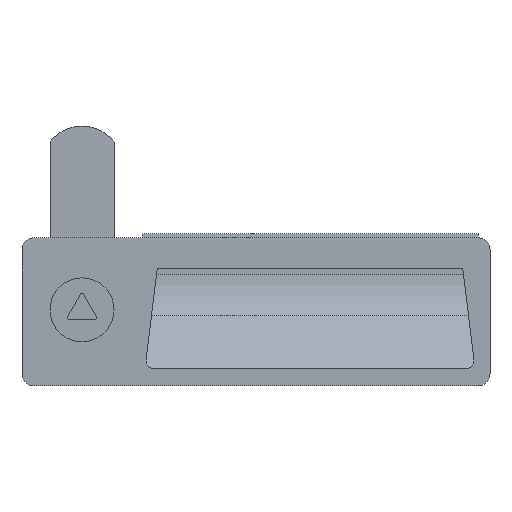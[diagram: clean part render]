
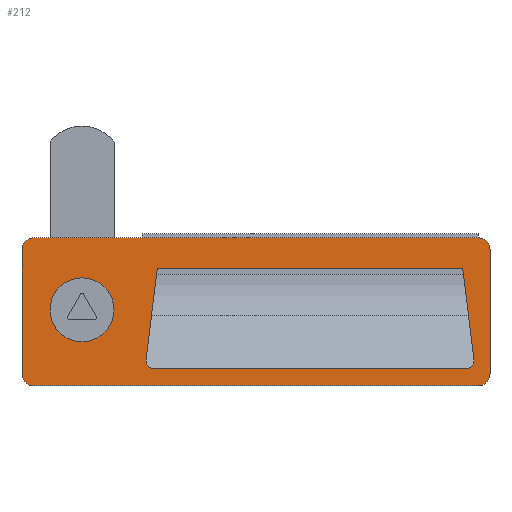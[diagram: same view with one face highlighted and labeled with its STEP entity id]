
A CAD part, top view. The second image highlights one B-rep face of the part: STEP entity #212.
In plain terms, the highlighted planar face has unit normal (0, 0, 1).
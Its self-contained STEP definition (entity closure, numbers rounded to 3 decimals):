
#212 = ADVANCED_FACE( '', ( #348, #349, #350 ), #351, .T. );
#348 = FACE_BOUND( '', #535, .T. );
#349 = FACE_OUTER_BOUND( '', #536, .T. );
#350 = FACE_BOUND( '', #537, .T. );
#351 = PLANE( '', #538 );
#535 = EDGE_LOOP( '', ( #989 ) );
#536 = EDGE_LOOP( '', ( #990, #991, #992, #993, #994, #995, #996, #997 ) );
#537 = EDGE_LOOP( '', ( #998, #999, #1000, #1001, #1002, #1003 ) );
#538 = AXIS2_PLACEMENT_3D( '', #1004, #1005, #1006 );
#989 = ORIENTED_EDGE( '', *, *, #1457, .F. );
#990 = ORIENTED_EDGE( '', *, *, #1458, .T. );
#991 = ORIENTED_EDGE( '', *, *, #1459, .T. );
#992 = ORIENTED_EDGE( '', *, *, #1460, .T. );
#993 = ORIENTED_EDGE( '', *, *, #1461, .T. );
#994 = ORIENTED_EDGE( '', *, *, #1462, .T. );
#995 = ORIENTED_EDGE( '', *, *, #1463, .T. );
#996 = ORIENTED_EDGE( '', *, *, #1464, .T. );
#997 = ORIENTED_EDGE( '', *, *, #1465, .T. );
#998 = ORIENTED_EDGE( '', *, *, #1416, .F. );
#999 = ORIENTED_EDGE( '', *, *, #1417, .F. );
#1000 = ORIENTED_EDGE( '', *, *, #1407, .F. );
#1001 = ORIENTED_EDGE( '', *, *, #1410, .F. );
#1002 = ORIENTED_EDGE( '', *, *, #1412, .F. );
#1003 = ORIENTED_EDGE( '', *, *, #1414, .F. );
#1004 = CARTESIAN_POINT( '', ( -12., -16., 2. ) );
#1005 = DIRECTION( '', ( 0., 0., 1. ) );
#1006 = DIRECTION( '', ( 1., 0., 0. ) );
#1407 = EDGE_CURVE( '', #1683, #1685, #1686, .T. );
#1410 = EDGE_CURVE( '', #1688, #1683, #1690, .T. );
#1412 = EDGE_CURVE( '', #1691, #1688, #1693, .T. );
#1414 = EDGE_CURVE( '', #1694, #1691, #1696, .T. );
#1416 = EDGE_CURVE( '', #1697, #1694, #1699, .T. );
#1417 = EDGE_CURVE( '', #1685, #1697, #1700, .T. );
#1457 = EDGE_CURVE( '', #1766, #1766, #1767, .T. );
#1458 = EDGE_CURVE( '', #1768, #1769, #1770, .T. );
#1459 = EDGE_CURVE( '', #1769, #1771, #1772, .T. );
#1460 = EDGE_CURVE( '', #1771, #1773, #1774, .T. );
#1461 = EDGE_CURVE( '', #1773, #1775, #1776, .T. );
#1462 = EDGE_CURVE( '', #1775, #1777, #1778, .T. );
#1463 = EDGE_CURVE( '', #1777, #1779, #1780, .T. );
#1464 = EDGE_CURVE( '', #1779, #1781, #1782, .T. );
#1465 = EDGE_CURVE( '', #1781, #1768, #1783, .T. );
#1683 = VERTEX_POINT( '', #2093 );
#1685 = VERTEX_POINT( '', #2096 );
#1686 = LINE( '', #2097, #2098 );
#1688 = VERTEX_POINT( '', #2101 );
#1690 = LINE( '', #2104, #2105 );
#1691 = VERTEX_POINT( '', #2106 );
#1693 = CIRCLE( '', #2109, 2. );
#1694 = VERTEX_POINT( '', #2110 );
#1696 = LINE( '', #2113, #2114 );
#1697 = VERTEX_POINT( '', #2115 );
#1699 = CIRCLE( '', #2118, 2. );
#1700 = LINE( '', #2119, #2120 );
#1766 = VERTEX_POINT( '', #2211 );
#1767 = CIRCLE( '', #2212, 8. );
#1768 = VERTEX_POINT( '', #2213 );
#1769 = VERTEX_POINT( '', #2214 );
#1770 = LINE( '', #2215, #2216 );
#1771 = VERTEX_POINT( '', #2217 );
#1772 = CIRCLE( '', #2218, 3. );
#1773 = VERTEX_POINT( '', #2219 );
#1774 = LINE( '', #2220, #2221 );
#1775 = VERTEX_POINT( '', #2222 );
#1776 = CIRCLE( '', #2223, 3. );
#1777 = VERTEX_POINT( '', #2224 );
#1778 = LINE( '', #2225, #2226 );
#1779 = VERTEX_POINT( '', #2227 );
#1780 = CIRCLE( '', #2228, 3. );
#1781 = VERTEX_POINT( '', #2229 );
#1782 = LINE( '', #2230, #2231 );
#1783 = CIRCLE( '', #2232, 3. );
#2093 = CARTESIAN_POINT( '', ( 95.18, 10.26, 2. ) );
#2096 = CARTESIAN_POINT( '', ( 18.82, 10.26, 2. ) );
#2097 = CARTESIAN_POINT( '', ( 95.18, 10.26, 2. ) );
#2098 = VECTOR( '', #2540, 1000. );
#2101 = CARTESIAN_POINT( '', ( 97.975, -12.496, 2. ) );
#2104 = CARTESIAN_POINT( '', ( 97.975, -12.496, 2. ) );
#2105 = VECTOR( '', #2543, 1000. );
#2106 = CARTESIAN_POINT( '', ( 95.989, -14.74, 2. ) );
#2109 = AXIS2_PLACEMENT_3D( '', #2545, #2546, #2547 );
#2110 = CARTESIAN_POINT( '', ( 18.011, -14.74, 2. ) );
#2113 = CARTESIAN_POINT( '', ( 18.011, -14.74, 2. ) );
#2114 = VECTOR( '', #2549, 1000. );
#2115 = CARTESIAN_POINT( '', ( 16.025, -12.496, 2. ) );
#2118 = AXIS2_PLACEMENT_3D( '', #2551, #2552, #2553 );
#2119 = CARTESIAN_POINT( '', ( 18.82, 10.26, 2. ) );
#2120 = VECTOR( '', #2554, 1000. );
#2211 = CARTESIAN_POINT( '', ( 8., 0., 2. ) );
#2212 = AXIS2_PLACEMENT_3D( '', #2622, #2623, #2624 );
#2213 = CARTESIAN_POINT( '', ( -15., 15., 2. ) );
#2214 = CARTESIAN_POINT( '', ( -15., -16., 2. ) );
#2215 = CARTESIAN_POINT( '', ( -15., 15., 2. ) );
#2216 = VECTOR( '', #2625, 1000. );
#2217 = CARTESIAN_POINT( '', ( -12., -19., 2. ) );
#2218 = AXIS2_PLACEMENT_3D( '', #2626, #2627, #2628 );
#2219 = CARTESIAN_POINT( '', ( 99., -19., 2. ) );
#2220 = CARTESIAN_POINT( '', ( -12., -19., 2. ) );
#2221 = VECTOR( '', #2629, 1000. );
#2222 = CARTESIAN_POINT( '', ( 102., -16., 2. ) );
#2223 = AXIS2_PLACEMENT_3D( '', #2630, #2631, #2632 );
#2224 = CARTESIAN_POINT( '', ( 102., 15., 2. ) );
#2225 = CARTESIAN_POINT( '', ( 102., -16., 2. ) );
#2226 = VECTOR( '', #2633, 1000. );
#2227 = CARTESIAN_POINT( '', ( 99., 18., 2. ) );
#2228 = AXIS2_PLACEMENT_3D( '', #2634, #2635, #2636 );
#2229 = CARTESIAN_POINT( '', ( -12., 18., 2. ) );
#2230 = CARTESIAN_POINT( '', ( 99., 18., 2. ) );
#2231 = VECTOR( '', #2637, 1000. );
#2232 = AXIS2_PLACEMENT_3D( '', #2638, #2639, #2640 );
#2540 = DIRECTION( '', ( -1., 0., 0. ) );
#2543 = DIRECTION( '', ( -0.122, 0.993, 0. ) );
#2545 = CARTESIAN_POINT( '', ( 95.989, -12.74, 2. ) );
#2546 = DIRECTION( '', ( 0., 0., 1. ) );
#2547 = DIRECTION( '', ( 1., 0., 0. ) );
#2549 = DIRECTION( '', ( 1., 0., 0. ) );
#2551 = CARTESIAN_POINT( '', ( 18.011, -12.74, 2. ) );
#2552 = DIRECTION( '', ( 0., 0., 1. ) );
#2553 = DIRECTION( '', ( 1., 0., 0. ) );
#2554 = DIRECTION( '', ( -0.122, -0.993, 0. ) );
#2622 = CARTESIAN_POINT( '', ( 0., 0., 2. ) );
#2623 = DIRECTION( '', ( 0., 0., 1. ) );
#2624 = DIRECTION( '', ( 1., 0., 0. ) );
#2625 = DIRECTION( '', ( 0., -1., 0. ) );
#2626 = CARTESIAN_POINT( '', ( -12., -16., 2. ) );
#2627 = DIRECTION( '', ( 0., 0., 1. ) );
#2628 = DIRECTION( '', ( 1., 0., 0. ) );
#2629 = DIRECTION( '', ( 1., 0., 0. ) );
#2630 = CARTESIAN_POINT( '', ( 99., -16., 2. ) );
#2631 = DIRECTION( '', ( 0., 0., 1. ) );
#2632 = DIRECTION( '', ( 1., 0., 0. ) );
#2633 = DIRECTION( '', ( 0., 1., 0. ) );
#2634 = CARTESIAN_POINT( '', ( 99., 15., 2. ) );
#2635 = DIRECTION( '', ( 0., 0., 1. ) );
#2636 = DIRECTION( '', ( 1., 0., 0. ) );
#2637 = DIRECTION( '', ( -1., 0., 0. ) );
#2638 = CARTESIAN_POINT( '', ( -12., 15., 2. ) );
#2639 = DIRECTION( '', ( 0., 0., 1. ) );
#2640 = DIRECTION( '', ( 1., 0., 0. ) );
